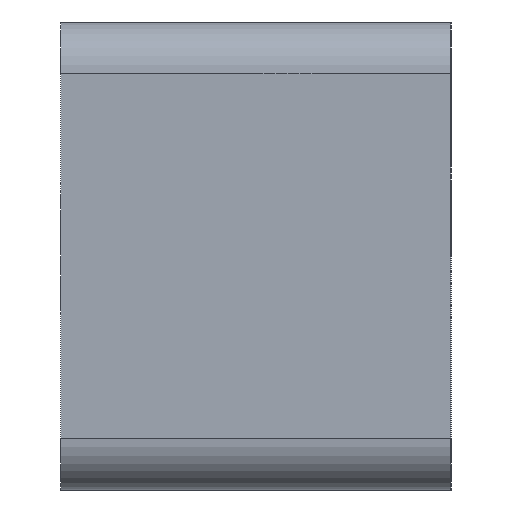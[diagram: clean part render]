
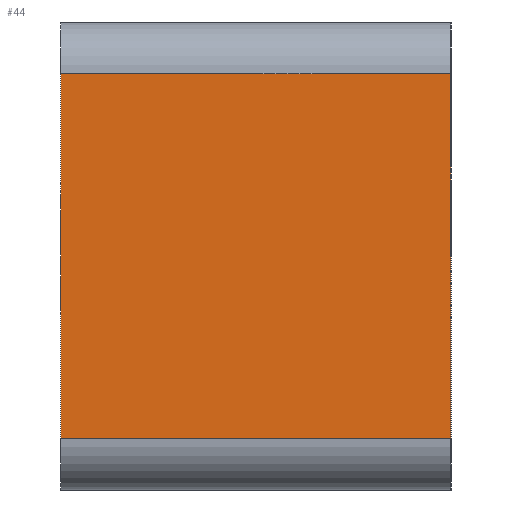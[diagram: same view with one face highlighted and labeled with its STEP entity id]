
A CAD part, left-side view. The second image highlights one B-rep face of the part: STEP entity #44.
In plain terms, the highlighted planar face has unit normal (-1, 0, 0).
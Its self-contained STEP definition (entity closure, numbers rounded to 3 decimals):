
#13 = EDGE_CURVE ( 'NONE', #323, #352, #49, .T. ) ;
#18 = CARTESIAN_POINT ( 'NONE',  ( -40., 15., -9. ) ) ;
#20 = VECTOR ( 'NONE', #263, 1000. ) ;
#33 = AXIS2_PLACEMENT_3D ( 'NONE', #18, #363, #145 ) ;
#44 = ADVANCED_FACE ( 'NONE', ( #285 ), #172, .F. ) ;
#49 = LINE ( 'NONE', #88, #379 ) ;
#50 = ORIENTED_EDGE ( 'NONE', *, *, #75, .T. ) ;
#75 = EDGE_CURVE ( 'NONE', #376, #136, #279, .T. ) ;
#84 = DIRECTION ( 'NONE',  ( 0., -1., 0. ) ) ;
#88 = CARTESIAN_POINT ( 'NONE',  ( -40., 15., -9. ) ) ;
#97 = ORIENTED_EDGE ( 'NONE', *, *, #100, .T. ) ;
#100 = EDGE_CURVE ( 'NONE', #136, #352, #106, .T. ) ;
#104 = EDGE_CURVE ( 'NONE', #323, #376, #354, .T. ) ;
#106 = LINE ( 'NONE', #293, #20 ) ;
#135 = VECTOR ( 'NONE', #265, 1000. ) ;
#136 = VERTEX_POINT ( 'NONE', #362 ) ;
#145 = DIRECTION ( 'NONE',  ( 0., 0., -1. ) ) ;
#157 = CARTESIAN_POINT ( 'NONE',  ( -40., 15., -7. ) ) ;
#171 = CARTESIAN_POINT ( 'NONE',  ( -40., 15., -7. ) ) ;
#172 = PLANE ( 'NONE',  #33 ) ;
#185 = VECTOR ( 'NONE', #84, 1000. ) ;
#214 = ORIENTED_EDGE ( 'NONE', *, *, #13, .F. ) ;
#226 = ORIENTED_EDGE ( 'NONE', *, *, #104, .T. ) ;
#263 = DIRECTION ( 'NONE',  ( 0., 1., 0. ) ) ;
#265 = DIRECTION ( 'NONE',  ( 0., 0., 1. ) ) ;
#266 = CARTESIAN_POINT ( 'NONE',  ( -40., 0., -7. ) ) ;
#279 = LINE ( 'NONE', #402, #135 ) ;
#285 = FACE_OUTER_BOUND ( 'NONE', #310, .T. ) ;
#293 = CARTESIAN_POINT ( 'NONE',  ( -40., 15., 7. ) ) ;
#299 = DIRECTION ( 'NONE',  ( 0., 0., 1. ) ) ;
#306 = CARTESIAN_POINT ( 'NONE',  ( -40., 15., 7. ) ) ;
#310 = EDGE_LOOP ( 'NONE', ( #214, #226, #50, #97 ) ) ;
#323 = VERTEX_POINT ( 'NONE', #157 ) ;
#352 = VERTEX_POINT ( 'NONE', #306 ) ;
#354 = LINE ( 'NONE', #171, #185 ) ;
#362 = CARTESIAN_POINT ( 'NONE',  ( -40., 0., 7. ) ) ;
#363 = DIRECTION ( 'NONE',  ( 1., 0., 0. ) ) ;
#376 = VERTEX_POINT ( 'NONE', #266 ) ;
#379 = VECTOR ( 'NONE', #299, 1000. ) ;
#402 = CARTESIAN_POINT ( 'NONE',  ( -40., 0., -9. ) ) ;
